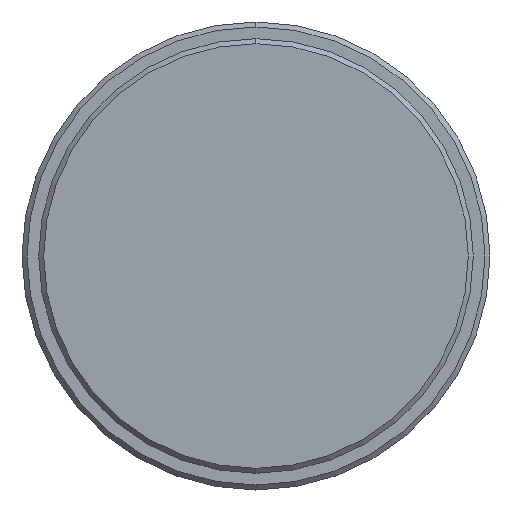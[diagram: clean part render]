
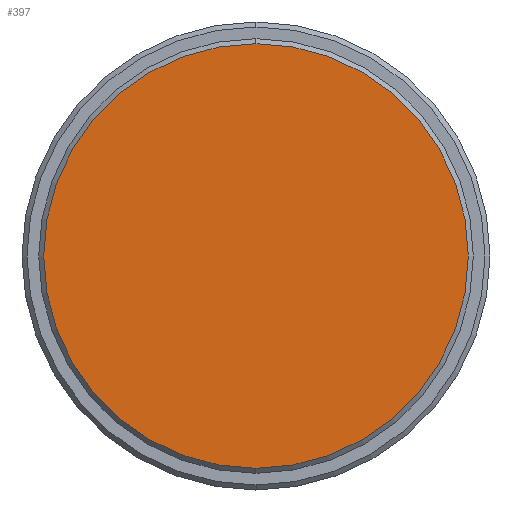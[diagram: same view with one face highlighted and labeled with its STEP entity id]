
A CAD part, left-side view. The second image highlights one B-rep face of the part: STEP entity #397.
In plain terms, the highlighted planar face has unit normal (-1, 0, 0).
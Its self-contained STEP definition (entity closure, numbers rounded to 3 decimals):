
#90 = CARTESIAN_POINT ( 'NONE',  ( 0., 0., 0. ) ) ;
#107 = DIRECTION ( 'NONE',  ( -1., 0., 0. ) ) ;
#115 = VERTEX_POINT ( 'NONE', #233 ) ;
#126 = ORIENTED_EDGE ( 'NONE', *, *, #440, .T. ) ;
#149 = DIRECTION ( 'NONE',  ( 0., 0., 1. ) ) ;
#156 = CIRCLE ( 'NONE', #317, 12.7 ) ;
#161 = CARTESIAN_POINT ( 'NONE',  ( 0., 0., 0. ) ) ;
#166 = DIRECTION ( 'NONE',  ( 0., 0., -1. ) ) ;
#233 = CARTESIAN_POINT ( 'NONE',  ( 0., 0., -12.7 ) ) ;
#241 = VERTEX_POINT ( 'NONE', #630 ) ;
#317 = AXIS2_PLACEMENT_3D ( 'NONE', #161, #107, #545 ) ;
#356 = EDGE_CURVE ( 'NONE', #115, #241, #592, .T. ) ;
#365 = PLANE ( 'NONE',  #502 ) ;
#382 = DIRECTION ( 'NONE',  ( 1., 0., 0. ) ) ;
#386 = ORIENTED_EDGE ( 'NONE', *, *, #356, .T. ) ;
#397 = ADVANCED_FACE ( 'NONE', ( #462 ), #365, .F. ) ;
#432 = CARTESIAN_POINT ( 'NONE',  ( 0., 0., 0. ) ) ;
#440 = EDGE_CURVE ( 'NONE', #241, #115, #156, .T. ) ;
#462 = FACE_OUTER_BOUND ( 'NONE', #596, .T. ) ;
#477 = DIRECTION ( 'NONE',  ( -1., 0., 0. ) ) ;
#495 = AXIS2_PLACEMENT_3D ( 'NONE', #90, #477, #149 ) ;
#502 = AXIS2_PLACEMENT_3D ( 'NONE', #432, #382, #166 ) ;
#545 = DIRECTION ( 'NONE',  ( 0., 0., 1. ) ) ;
#592 = CIRCLE ( 'NONE', #495, 12.7 ) ;
#596 = EDGE_LOOP ( 'NONE', ( #386, #126 ) ) ;
#630 = CARTESIAN_POINT ( 'NONE',  ( 0., 0., 12.7 ) ) ;
